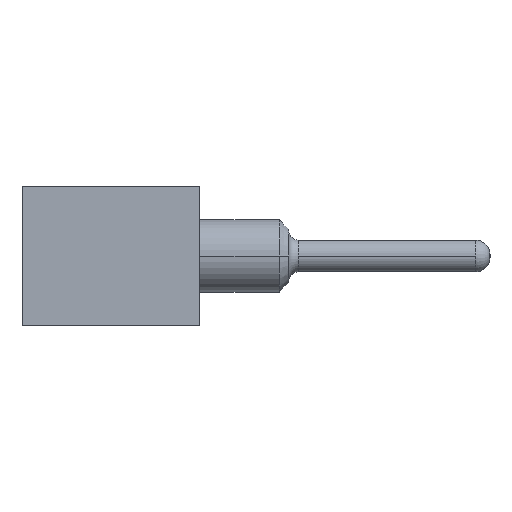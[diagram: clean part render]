
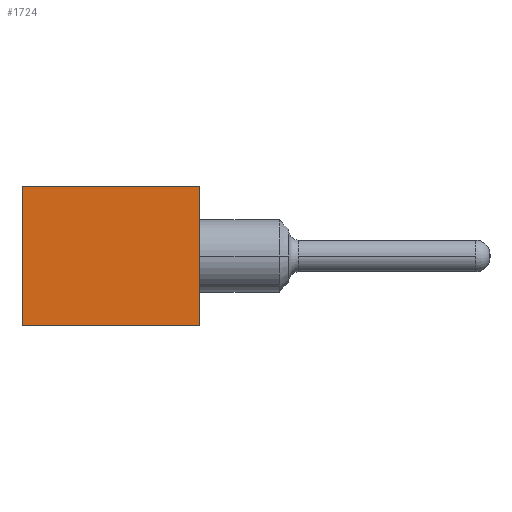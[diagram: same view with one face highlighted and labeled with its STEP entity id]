
A CAD part, left-side view. The second image highlights one B-rep face of the part: STEP entity #1724.
In plain terms, the highlighted planar face has unit normal (-1, 0, 0).
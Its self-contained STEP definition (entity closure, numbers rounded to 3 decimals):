
#1724=ADVANCED_FACE('',(#3483),#3484,.T.);
#3483=FACE_OUTER_BOUND('',#5244,.T.);
#3484=PLANE('',#5245);
#5244=EDGE_LOOP('',(#10101,#10102,#10103,#10104));
#5245=AXIS2_PLACEMENT_3D('',#10105,#10106,#10107);
#10101=ORIENTED_EDGE('',*,*,#11873,.T.);
#10102=ORIENTED_EDGE('',*,*,#12102,.F.);
#10103=ORIENTED_EDGE('',*,*,#12112,.F.);
#10104=ORIENTED_EDGE('',*,*,#12109,.T.);
#10105=CARTESIAN_POINT('',(-10.0,0.,0.));
#10106=DIRECTION('',(-1.0,0.,0.));
#10107=DIRECTION('',(0.,0.,1.0));
#11873=EDGE_CURVE('',#14500,#14498,#14501,.T.);
#12102=EDGE_CURVE('',#14826,#14498,#14828,.T.);
#12109=EDGE_CURVE('',#14836,#14500,#14837,.T.);
#12112=EDGE_CURVE('',#14836,#14826,#14840,.T.);
#14498=VERTEX_POINT('',#17602);
#14500=VERTEX_POINT('',#17605);
#14501=LINE('',#17606,#17607);
#14826=VERTEX_POINT('',#18094);
#14828=LINE('',#18097,#18098);
#14836=VERTEX_POINT('',#18109);
#14837=LINE('',#18110,#18111);
#14840=LINE('',#18115,#18116);
#17602=CARTESIAN_POINT('',(-10.0,2.8,-1.1));
#17605=CARTESIAN_POINT('',(-10.0,2.8,1.1));
#17606=CARTESIAN_POINT('',(-10.0,2.8,1.1));
#17607=VECTOR('',#20865,1.0);
#18094=CARTESIAN_POINT('',(-10.0,0.,-1.1));
#18097=CARTESIAN_POINT('',(-10.0,0.,-1.1));
#18098=VECTOR('',#21029,1.0);
#18109=CARTESIAN_POINT('',(-10.0,0.,1.1));
#18110=CARTESIAN_POINT('',(-10.0,0.,1.1));
#18111=VECTOR('',#21033,1.0);
#18115=CARTESIAN_POINT('',(-10.0,0.,1.1));
#18116=VECTOR('',#21035,1.0);
#20865=DIRECTION('',(0.,0.,-1.0));
#21029=DIRECTION('',(0.0,1.0,0.));
#21033=DIRECTION('',(0.0,1.0,0.));
#21035=DIRECTION('',(0.,0.,-1.0));
